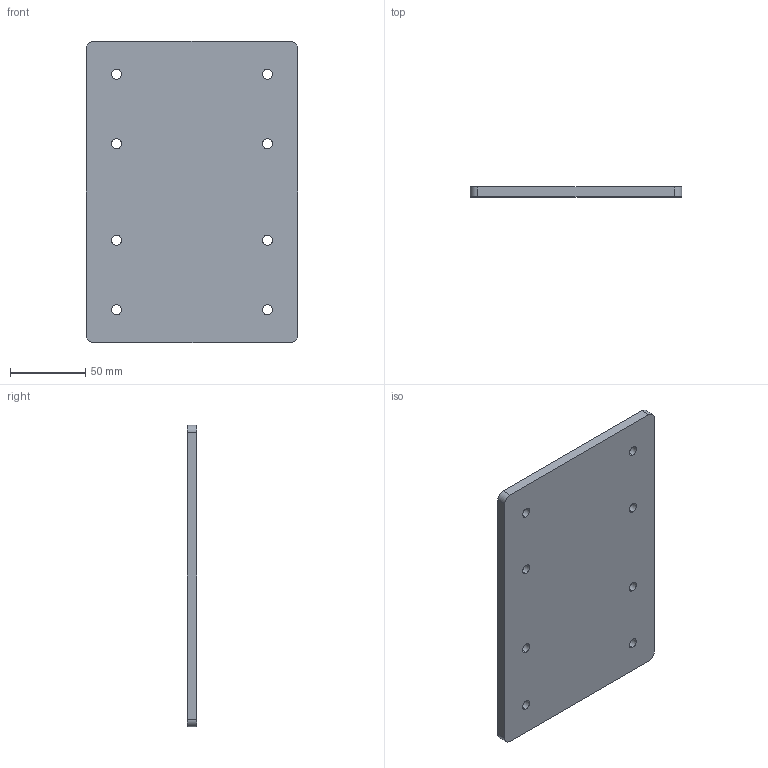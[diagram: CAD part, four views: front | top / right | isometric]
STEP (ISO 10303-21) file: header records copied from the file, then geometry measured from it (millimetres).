
FILE_DESCRIPTION (( 'STEP AP214' ), '1' );
FILE_NAME ('MISC1812DS120HPCARMNT.STEP', '2021-03-08T22:55:14', ( '' ), ( '' ), 'SwSTEP 2.0', 'SolidWorks 2021', '' );
FILE_SCHEMA (( 'AUTOMOTIVE_DESIGN' ));
Length unit declared in the file: millimetre
Products named in the file (1): MISC1812DS120HPCARMNT
Bounding box: 140 x 6.5 x 200 mm (x, y, z)
Volume: 180081.5 mm3; surface area: 60852.1 mm2
Topology: 1 solids, 1 shells, 26 faces, 72 edges, 48 vertices
Faces by surface type: cylinder 20, plane 6
Entity records: 922 total; most frequent: DIRECTION 166, CARTESIAN_POINT 147, ORIENTED_EDGE 144, EDGE_CURVE 72, AXIS2_PLACEMENT_3D 67, VERTEX_POINT 48, EDGE_LOOP 42, CIRCLE 40
